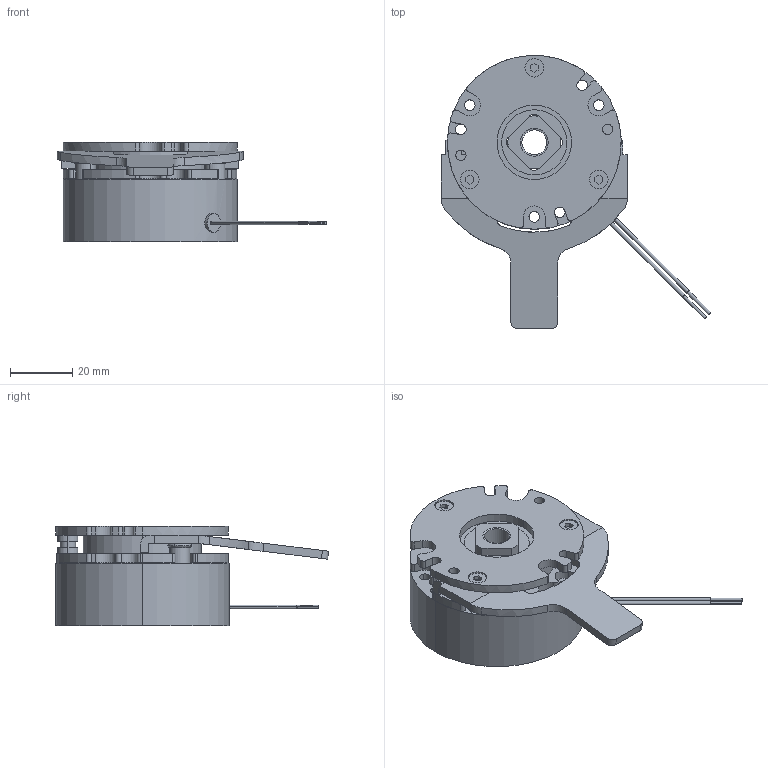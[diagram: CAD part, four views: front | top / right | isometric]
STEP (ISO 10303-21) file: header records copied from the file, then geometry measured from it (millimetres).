
FILE_DESCRIPTION (( 'STEP AP214' ), '1' );
FILE_NAME ('BXW-03-12L-8_STEP.STEP', '2018-06-29T00:08:53', ( 'MIKI' ), ( '' ), 'SwSTEP 2.0', 'SolidWorks 2012', '' );
FILE_SCHEMA (( 'AUTOMOTIVE_DESIGN' ));
Length unit declared in the file: millimetre
Products named in the file (1): BXW-03-12L-8_STEP
Bounding box: 86.89 x 88 x 31.9 mm (x, y, z)
Volume: 63603 mm3; surface area: 24943.1 mm2
Topology: 3 solids, 3 shells, 335 faces, 889 edges, 576 vertices
Faces by surface type: cylinder 172, plane 139, cone 16, torus 8
Entity records: 14452 total; most frequent: CARTESIAN_POINT 2093, DIRECTION 1871, ORIENTED_EDGE 1770, EDGE_CURVE 885, AXIS2_PLACEMENT_3D 686, VERTEX_POINT 576, LINE 499, VECTOR 499
